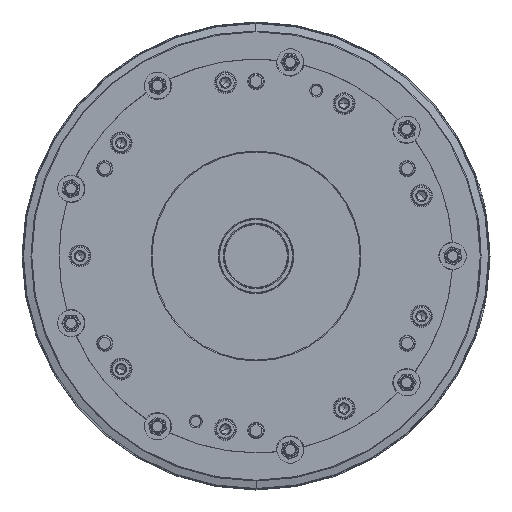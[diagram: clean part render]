
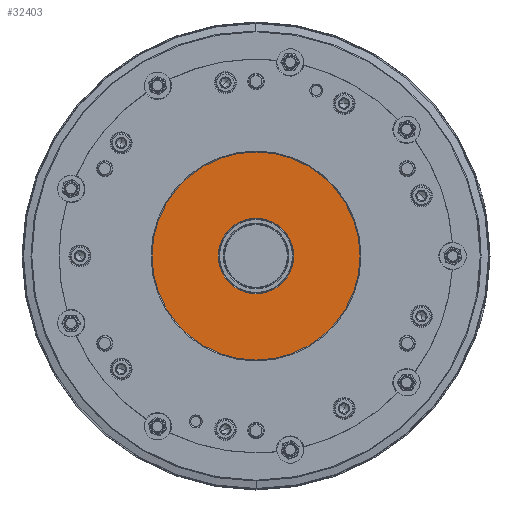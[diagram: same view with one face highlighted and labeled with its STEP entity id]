
A CAD part, left-side view. The second image highlights one B-rep face of the part: STEP entity #32403.
In plain terms, the highlighted planar face has unit normal (-1, 0, 0).
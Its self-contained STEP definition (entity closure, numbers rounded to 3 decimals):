
#3845 = DIRECTION ( 'NONE',  ( 0., 0., -1. ) ) ;
#7052 = CARTESIAN_POINT ( 'NONE',  ( -112., 0., 25.4 ) ) ;
#8033 = EDGE_CURVE ( 'NONE', #114816, #114884, #136202, .T. ) ;
#13914 = CARTESIAN_POINT ( 'NONE',  ( -112., 0., -25.4 ) ) ;
#14833 = DIRECTION ( 'NONE',  ( 0., 0., 1. ) ) ;
#18549 = DIRECTION ( 'NONE',  ( 1., 0., 0. ) ) ;
#22947 = CARTESIAN_POINT ( 'NONE',  ( -112., 0., 0. ) ) ;
#24017 = CARTESIAN_POINT ( 'NONE',  ( -112., 0., 70. ) ) ;
#26543 = CARTESIAN_POINT ( 'NONE',  ( -112., 25.4, 0. ) ) ;
#32403 = ADVANCED_FACE ( 'NONE', ( #79318, #71222 ), #136444, .T. ) ;
#45115 = EDGE_CURVE ( 'NONE', #49248, #121678, #85026, .T. ) ;
#46366 = DIRECTION ( 'NONE',  ( -1., 0., 0. ) ) ;
#47943 = AXIS2_PLACEMENT_3D ( 'NONE', #26543, #46366, #14833 ) ;
#49248 = VERTEX_POINT ( 'NONE', #13914 ) ;
#50002 = CIRCLE ( 'NONE', #64120, 70. ) ;
#50752 = EDGE_CURVE ( 'NONE', #121678, #49248, #115283, .T. ) ;
#53086 = ORIENTED_EDGE ( 'NONE', *, *, #50752, .T. ) ;
#58809 = DIRECTION ( 'NONE',  ( 1., 0., 0. ) ) ;
#60757 = ORIENTED_EDGE ( 'NONE', *, *, #8033, .F. ) ;
#60961 = ORIENTED_EDGE ( 'NONE', *, *, #45115, .T. ) ;
#61314 = CARTESIAN_POINT ( 'NONE',  ( -112., 0., -70. ) ) ;
#62568 = CARTESIAN_POINT ( 'NONE',  ( -112., 0., 0. ) ) ;
#63263 = DIRECTION ( 'NONE',  ( 0., 0., -1. ) ) ;
#64120 = AXIS2_PLACEMENT_3D ( 'NONE', #91765, #82938, #3845 ) ;
#71222 = FACE_OUTER_BOUND ( 'NONE', #71928, .T. ) ;
#71928 = EDGE_LOOP ( 'NONE', ( #78992, #60757 ) ) ;
#74967 = DIRECTION ( 'NONE',  ( 1., 0., 0. ) ) ;
#78992 = ORIENTED_EDGE ( 'NONE', *, *, #144272, .F. ) ;
#79318 = FACE_BOUND ( 'NONE', #125201, .T. ) ;
#82938 = DIRECTION ( 'NONE',  ( 1., 0., 0. ) ) ;
#85026 = CIRCLE ( 'NONE', #106052, 25.4 ) ;
#91765 = CARTESIAN_POINT ( 'NONE',  ( -112., 0., 0. ) ) ;
#102775 = DIRECTION ( 'NONE',  ( 0., 0., -1. ) ) ;
#105877 = AXIS2_PLACEMENT_3D ( 'NONE', #22947, #58809, #102775 ) ;
#106052 = AXIS2_PLACEMENT_3D ( 'NONE', #62568, #74967, #132080 ) ;
#114816 = VERTEX_POINT ( 'NONE', #24017 ) ;
#114884 = VERTEX_POINT ( 'NONE', #61314 ) ;
#115283 = CIRCLE ( 'NONE', #105877, 25.4 ) ;
#119896 = AXIS2_PLACEMENT_3D ( 'NONE', #140161, #18549, #63263 ) ;
#121678 = VERTEX_POINT ( 'NONE', #7052 ) ;
#125201 = EDGE_LOOP ( 'NONE', ( #53086, #60961 ) ) ;
#132080 = DIRECTION ( 'NONE',  ( 0., 0., -1. ) ) ;
#136202 = CIRCLE ( 'NONE', #119896, 70. ) ;
#136444 = PLANE ( 'NONE',  #47943 ) ;
#140161 = CARTESIAN_POINT ( 'NONE',  ( -112., 0., 0. ) ) ;
#144272 = EDGE_CURVE ( 'NONE', #114884, #114816, #50002, .T. ) ;
